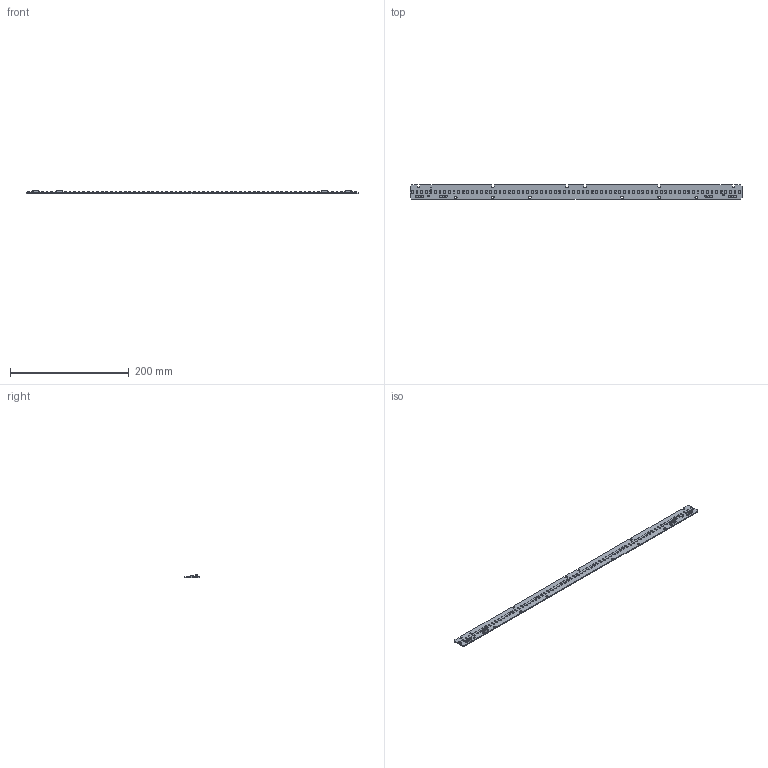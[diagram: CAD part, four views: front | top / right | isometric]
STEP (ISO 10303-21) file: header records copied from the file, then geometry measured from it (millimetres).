
FILE_DESCRIPTION((''),'2;1');
FILE_NAME('16206871_LLE-G4_24X560_4000LM','2016-02-19T',('bernhard.fink'),(''),'PRO/ENGINEER BY PARAMETRIC TECHNOLOGY CORPORATION, 2015200','PRO/ENGINEER BY PARAMETRIC TECHNOLOGY CORPORATION, 2015200','');
FILE_SCHEMA(('AUTOMOTIVE_DESIGN { 1 0 10303 214 1 1 1 1 }'));
Products named in the file (1): 16206871_LLE-G4_24X560_4000LM
Bounding box: 559 x 23.6 x 5.1 mm (x, y, z)
Volume: 22895.2 mm3; surface area: 29936.3 mm2
Topology: 1 solids, 1 shells, 3774 faces, 10392 edges, 6692 vertices
Faces by surface type: plane 2156, cylinder 1198, bspline 232, revolution 72, cone 68, torus 24, sphere 24
Entity records: 183292 total; most frequent: CARTESIAN_POINT 36472, ORIENTED_EDGE 20592, DIRECTION 17416, PRESENTATION_STYLE_ASSIGNMENT 13567, STYLED_ITEM 10369, CURVE_STYLE 10368, EDGE_CURVE 10296, VECTOR 6844
